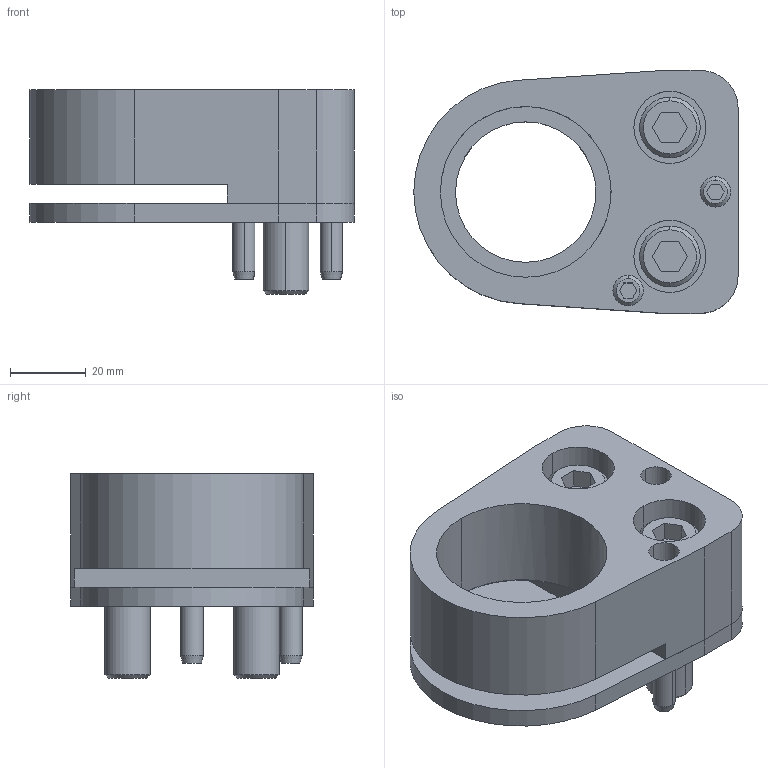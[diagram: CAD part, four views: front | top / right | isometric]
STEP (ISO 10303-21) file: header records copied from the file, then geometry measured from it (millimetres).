
FILE_DESCRIPTION(/* description */ (''),/* implementation_level */ '2;1');
FILE_NAME(/* name */ '3d_cp-fd45_03587_r00.stp',/* time_stamp */ '2011-01-10T14:16:28+09:00',/* author */ ('MISUMI'),/* organization */ (''),/* preprocessor_version */ 'ST-DEVELOPER v11',/* originating_system */ 'UGS - NX 5.0',/* authorisation */ '');
FILE_SCHEMA (('CONFIG_CONTROL_DESIGN'));
Length unit declared in the file: millimetre
Products named in the file (1): 3d_cp-fd45_03587_r00
Bounding box: 85.5 x 64 x 54 mm (x, y, z)
Volume: 107918.5 mm3; surface area: 37436.3 mm2
Topology: 8 solids, 8 shells, 155 faces, 354 edges, 228 vertices
Faces by surface type: plane 68, cylinder 60, cone 25, bspline 2
Entity records: 5049 total; most frequent: CARTESIAN_POINT 1327, DIRECTION 793, ORIENTED_EDGE 708, EDGE_CURVE 354, AXIS2_PLACEMENT_3D 298, VERTEX_POINT 228, LINE 197, VECTOR 197
